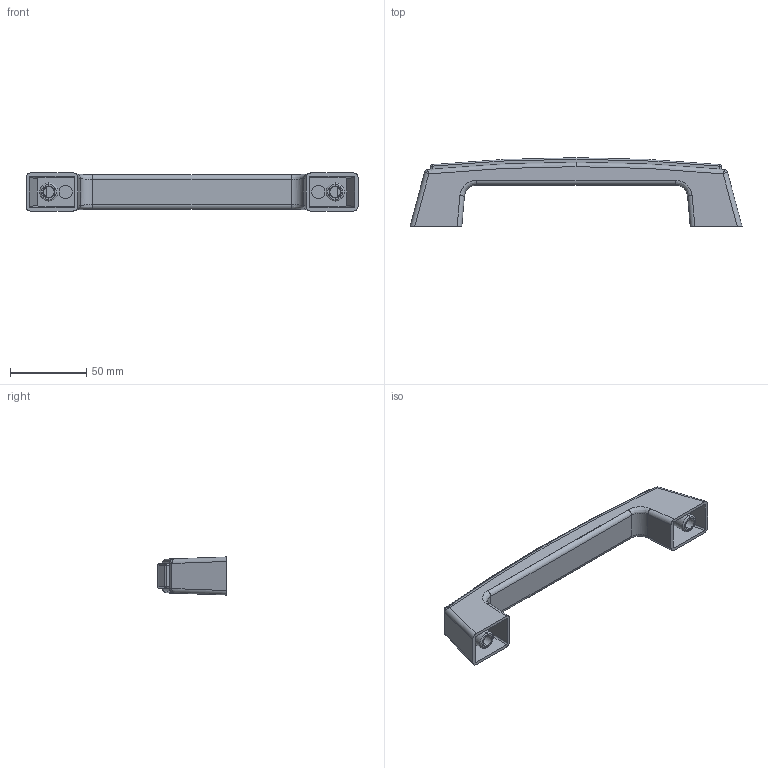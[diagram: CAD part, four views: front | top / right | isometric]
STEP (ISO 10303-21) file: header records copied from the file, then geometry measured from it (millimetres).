
FILE_DESCRIPTION (( 'STEP AP214' ), '1' );
FILE_NAME ('ETP-140-5.STEP', '2020-03-11T13:43:56', ( '' ), ( '' ), 'SwSTEP 2.0', 'SolidWorks 2019', '' );
FILE_SCHEMA (( 'AUTOMOTIVE_DESIGN' ));
Length unit declared in the file: millimetre
Products named in the file (1): ETP-140-5
Bounding box: 218 x 45 x 25 mm (x, y, z)
Volume: 81759.5 mm3; surface area: 29872.7 mm2
Topology: 1 solids, 1 shells, 113 faces, 278 edges, 168 vertices
Faces by surface type: cylinder 47, plane 41, bspline 15, torus 6, sphere 4
Entity records: 3746 total; most frequent: CARTESIAN_POINT 1233, ORIENTED_EDGE 540, DIRECTION 491, EDGE_CURVE 270, AXIS2_PLACEMENT_3D 180, VERTEX_POINT 168, VECTOR 131, LINE 131
